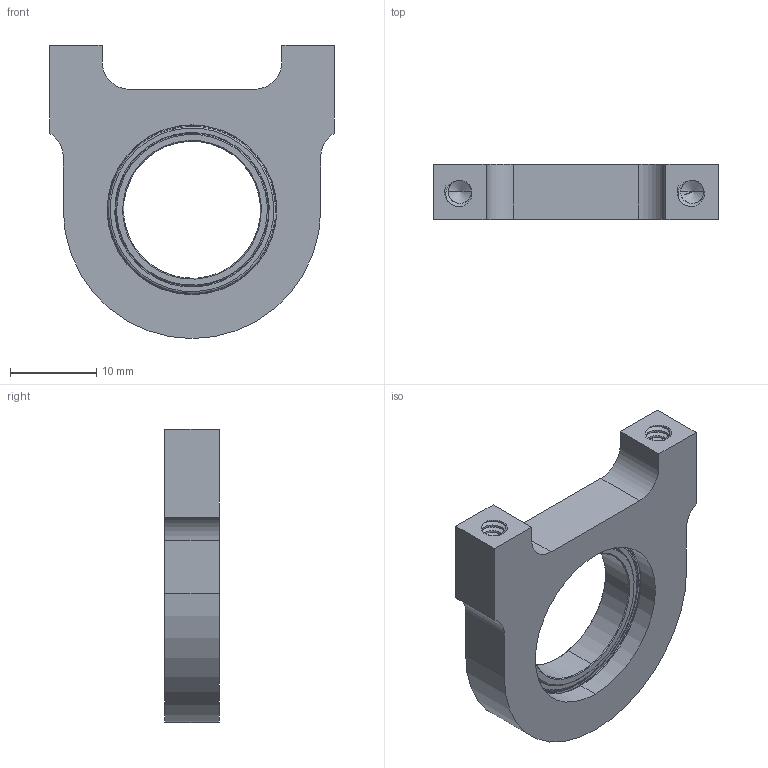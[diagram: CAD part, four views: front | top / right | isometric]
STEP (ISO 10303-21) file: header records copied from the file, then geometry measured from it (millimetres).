
FILE_DESCRIPTION (( 'STEP AP203' ), '1' );
FILE_NAME ('535162 assembly.STEP', '2016-10-10T14:25:39', ( '' ), ( '' ), 'SwSTEP 2.0', 'SolidWorks 2014', '' );
FILE_SCHEMA (( 'CONFIG_CONTROL_DESIGN' ));
Length unit declared in the file: inch
Products named in the file (3): 535162; 535162 assembly; 535028
Assembly tree (2 placements, depth 2):
  535162 assembly
    535162
    535028
Bounding box: 33.02 x 6.36 x 33.97 mm (x, y, z)
Volume: 3714.8 mm3; surface area: 3712.3 mm2
Topology: 4 solids, 4 shells, 182 faces, 453 edges, 288 vertices
Faces by surface type: cylinder 104, plane 28, cone 26, torus 20, bspline 4
Entity records: 8260 total; most frequent: CARTESIAN_POINT 3976, ORIENTED_EDGE 898, DIRECTION 803, EDGE_CURVE 449, AXIS2_PLACEMENT_3D 325, VERTEX_POINT 288, EDGE_LOOP 199, ADVANCED_FACE 182
